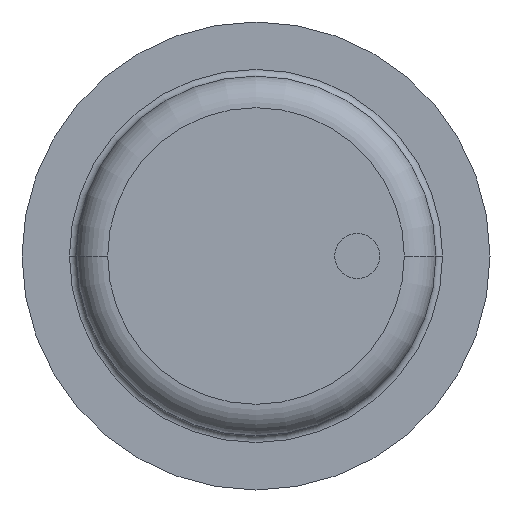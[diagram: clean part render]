
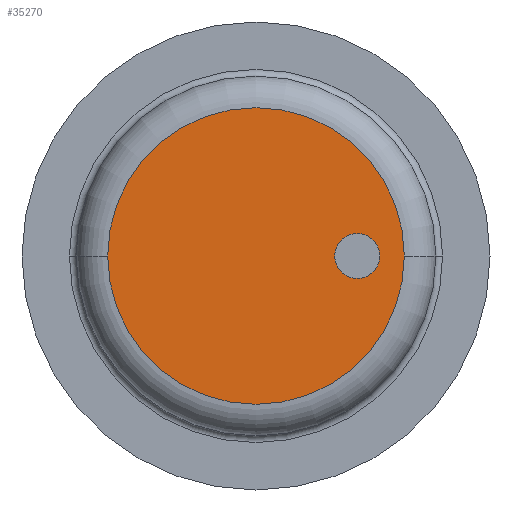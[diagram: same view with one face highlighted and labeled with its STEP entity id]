
A CAD part, front view. The second image highlights one B-rep face of the part: STEP entity #35270.
In plain terms, the highlighted planar face has unit normal (0, -1, 0).
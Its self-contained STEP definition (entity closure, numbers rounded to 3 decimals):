
#34730=CARTESIAN_POINT('',(145.93,-437.,0.));
#34740=VERTEX_POINT('',#34730);
#34770=CARTESIAN_POINT('',(80.,-437.,0.));
#34780=DIRECTION('',(0.,1.,0.));
#34790=DIRECTION('',(1.,0.,0.));
#34800=AXIS2_PLACEMENT_3D('',#34770,#34780,#34790);
#34810=CIRCLE('',#34800,65.93);
#34820=CARTESIAN_POINT('',(14.07,-437.,0.));
#34830=VERTEX_POINT('',#34820);
#34840=EDGE_CURVE('',#34830,#34740,#34810,.T.);
#34980=CARTESIAN_POINT('',(112.965,-437.,0.));
#34990=DIRECTION('',(0.,-1.,0.));
#35000=DIRECTION('',(-1.,0.,0.));
#35010=AXIS2_PLACEMENT_3D('',#34980,#34990,#35000);
#35020=PLANE('',#35010);
#35030=CARTESIAN_POINT('',(125.,-437.,0.));
#35040=DIRECTION('',(0.,1.,0.));
#35050=DIRECTION('',(1.,0.,0.));
#35060=AXIS2_PLACEMENT_3D('',#35030,#35040,#35050);
#35070=CIRCLE('',#35060,10.);
#35080=CARTESIAN_POINT('',(135.,-437.,0.));
#35090=VERTEX_POINT('',#35080);
#35100=CARTESIAN_POINT('',(115.,-437.,0.));
#35110=VERTEX_POINT('',#35100);
#35120=EDGE_CURVE('',#35090,#35110,#35070,.T.);
#35130=ORIENTED_EDGE('',*,*,#35120,.T.);
#35140=EDGE_CURVE('',#35110,#35090,#35070,.T.);
#35150=ORIENTED_EDGE('',*,*,#35140,.T.);
#35160=EDGE_LOOP('',(#35150,#35130));
#35170=FACE_BOUND('',#35160,.T.);
#35180=CARTESIAN_POINT('',(80.,-437.,-65.93));
#35190=VERTEX_POINT('',#35180);
#35200=EDGE_CURVE('',#35190,#34830,#34810,.T.);
#35210=ORIENTED_EDGE('',*,*,#35200,.F.);
#35220=ORIENTED_EDGE('',*,*,#34840,.F.);
#35230=EDGE_CURVE('',#34740,#35190,#34810,.T.);
#35240=ORIENTED_EDGE('',*,*,#35230,.F.);
#35250=EDGE_LOOP('',(#35240,#35220,#35210));
#35260=FACE_OUTER_BOUND('',#35250,.T.);
#35270=ADVANCED_FACE('',(#35170,#35260),#35020,.T.);
